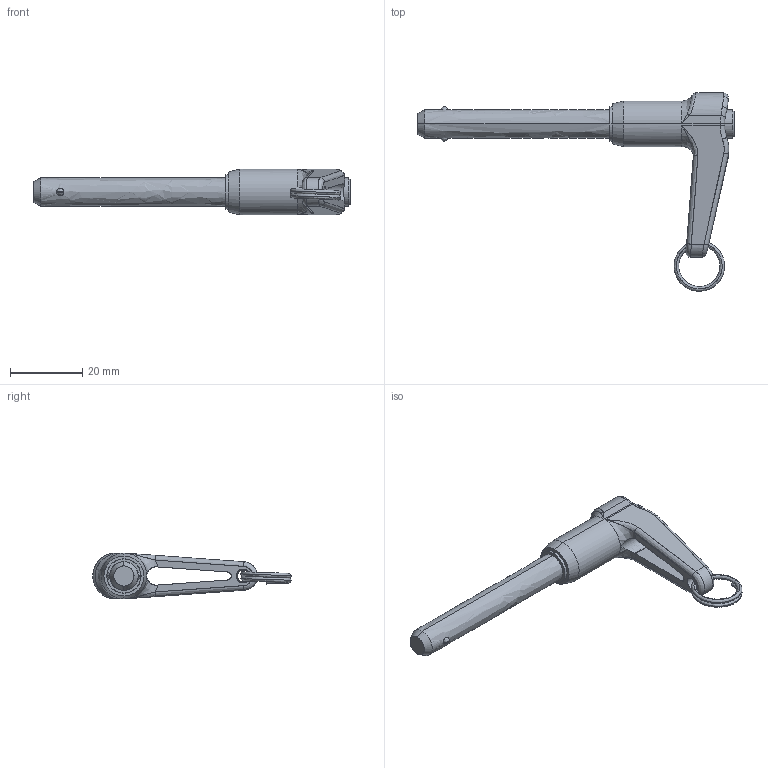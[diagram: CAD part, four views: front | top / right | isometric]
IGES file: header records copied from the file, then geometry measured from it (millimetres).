
Start section: SolidWorks IGES file using analytic representation for surfaces
Global section: file name: C:\Documents and Settings\IANO\My Documents\Wix and Auto CAD Work\CAD Models\Parametric Models\Wix Models\30000\33620_v2\33620_v2_20160606_IGES\33620.C018.igs; native system: SolidWorks 2009; preprocessor: SolidWorks 2009; author: IANO; date: 160615.125822; units: inch
Bounding box: 87.97 x 55.08 x 12.7 mm (x, y, z)
Surface area: 6085.4 mm2 (no closed solid volume)
Topology: 0 solids, 0 shells, 85 faces, 1226 edges, 1224 vertices
Faces by surface type: bspline 55, revolution 30
